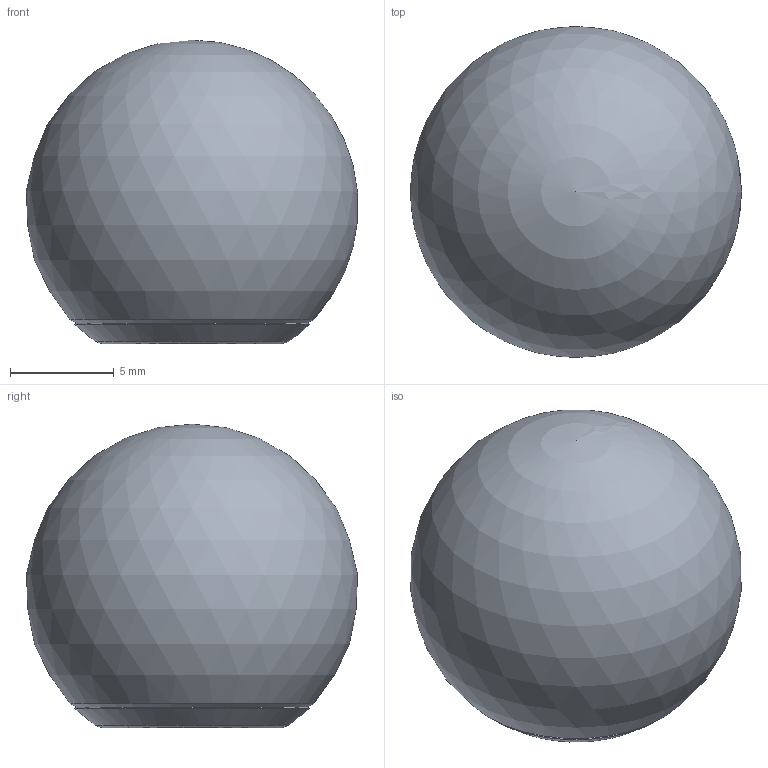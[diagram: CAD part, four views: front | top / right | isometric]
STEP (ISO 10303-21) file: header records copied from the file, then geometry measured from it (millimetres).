
FILE_DESCRIPTION(('Open CASCADE Model'),'2;1');
FILE_NAME('FL-BALL-S-knob-16','2026-10-19T21:24:16',('Author'),( 'Open CASCADE'),'Open CASCADE STEP processor 8.0','build123d', 'Unknown');
FILE_SCHEMA(('AUTOMOTIVE_DESIGN { 1 0 10303 214 1 1 1 1 }'));
Length unit declared in the file: millimetre
Products named in the file (2): FL-BALL-S-knob-16; brass_FL-BALLS16__k
Assembly tree (1 placements, depth 2):
  FL-BALL-S-knob-16
    brass_FL-BALLS16__k
Bounding box: 15.94 x 15.93 x 14.61 mm (x, y, z)
Volume: 1988.3 mm3; surface area: 925.9 mm2
Topology: 1 solids, 1 shells, 10 faces, 17 edges, 10 vertices
Faces by surface type: plane 3, sphere 2, cone 2, cylinder 2, bspline 1
Full cylindrical faces by diameter (mm): 3.3 x1, 5.1 x1
Entity records: 547 total; most frequent: CARTESIAN_POINT 165, DIRECTION 72, ORIENTED_EDGE 32, PCURVE 32, DEFINITIONAL_REPRESENTATION 32, LINE 28, VECTOR 28, AXIS2_PLACEMENT_3D 20
